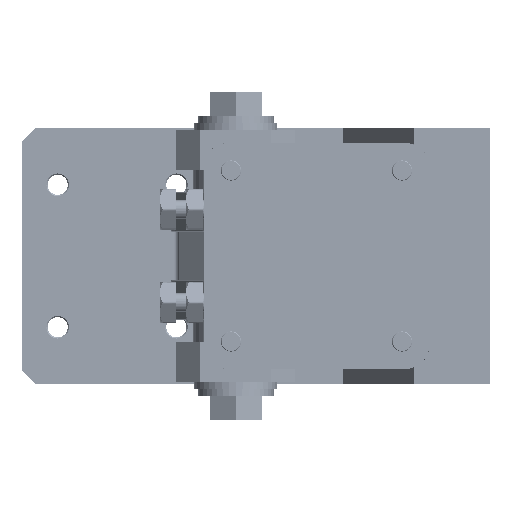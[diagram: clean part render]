
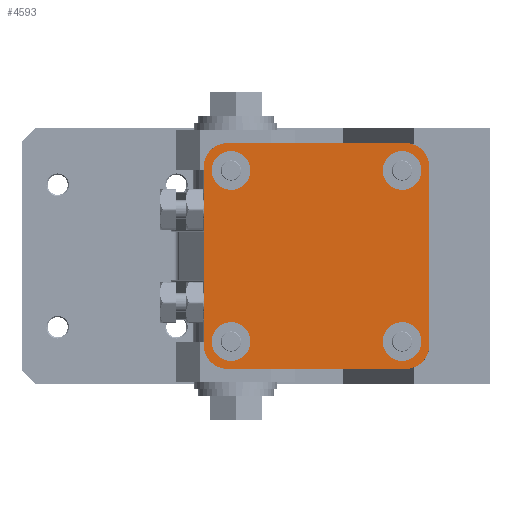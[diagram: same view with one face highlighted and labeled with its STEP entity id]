
A CAD part, front view. The second image highlights one B-rep face of the part: STEP entity #4593.
In plain terms, the highlighted planar face has unit normal (0, -1, 0).
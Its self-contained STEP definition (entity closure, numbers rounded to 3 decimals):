
#2187=FACE_BOUND('',#9729,.T.);
#2188=FACE_BOUND('',#9730,.T.);
#2189=FACE_BOUND('',#9731,.T.);
#2190=FACE_BOUND('',#9732,.T.);
#2191=FACE_BOUND('',#9733,.T.);
#3303=CIRCLE('',#36399,8.15);
#3304=CIRCLE('',#36400,8.15);
#3305=CIRCLE('',#36401,10.);
#3306=CIRCLE('',#36402,10.);
#3307=CIRCLE('',#36403,10.);
#3308=CIRCLE('',#36404,10.);
#3309=CIRCLE('',#36405,8.15);
#3310=CIRCLE('',#36406,8.15);
#4593=ADVANCED_FACE('',(#2187,#2188,#2189,#2190,#2191),#6363,.F.);
#6363=PLANE('',#36407);
#9729=EDGE_LOOP('',(#14417));
#9730=EDGE_LOOP('',(#14418));
#9731=EDGE_LOOP('',(#14419,#14420,#14421,#14422,#14423,#14424,#14425,#14426));
#9732=EDGE_LOOP('',(#14427));
#9733=EDGE_LOOP('',(#14428));
#14417=ORIENTED_EDGE('',*,*,#25639,.F.);
#14418=ORIENTED_EDGE('',*,*,#25640,.F.);
#14419=ORIENTED_EDGE('',*,*,#25641,.F.);
#14420=ORIENTED_EDGE('',*,*,#25642,.F.);
#14421=ORIENTED_EDGE('',*,*,#25643,.T.);
#14422=ORIENTED_EDGE('',*,*,#25644,.F.);
#14423=ORIENTED_EDGE('',*,*,#25535,.T.);
#14424=ORIENTED_EDGE('',*,*,#25645,.F.);
#14425=ORIENTED_EDGE('',*,*,#25646,.F.);
#14426=ORIENTED_EDGE('',*,*,#25647,.F.);
#14427=ORIENTED_EDGE('',*,*,#25648,.F.);
#14428=ORIENTED_EDGE('',*,*,#25649,.T.);
#21878=VERTEX_POINT('',#91617);
#21880=VERTEX_POINT('',#91620);
#21982=VERTEX_POINT('',#91842);
#21983=VERTEX_POINT('',#91844);
#21984=VERTEX_POINT('',#91846);
#21985=VERTEX_POINT('',#91847);
#21986=VERTEX_POINT('',#91849);
#21987=VERTEX_POINT('',#91851);
#21988=VERTEX_POINT('',#91854);
#21989=VERTEX_POINT('',#91856);
#21990=VERTEX_POINT('',#91859);
#21991=VERTEX_POINT('',#91861);
#25535=EDGE_CURVE('',#21880,#21878,#29488,.T.);
#25639=EDGE_CURVE('',#21982,#21982,#3303,.T.);
#25640=EDGE_CURVE('',#21983,#21983,#3304,.T.);
#25641=EDGE_CURVE('',#21984,#21985,#29574,.T.);
#25642=EDGE_CURVE('',#21986,#21984,#3305,.T.);
#25643=EDGE_CURVE('',#21986,#21987,#29575,.T.);
#25644=EDGE_CURVE('',#21880,#21987,#3306,.T.);
#25645=EDGE_CURVE('',#21988,#21878,#3307,.T.);
#25646=EDGE_CURVE('',#21989,#21988,#29576,.T.);
#25647=EDGE_CURVE('',#21985,#21989,#3308,.T.);
#25648=EDGE_CURVE('',#21990,#21990,#3309,.T.);
#25649=EDGE_CURVE('',#21991,#21991,#3310,.T.);
#29488=LINE('',#91619,#31684);
#29574=LINE('',#91845,#31770);
#29575=LINE('',#91850,#31771);
#29576=LINE('',#91855,#31772);
#31684=VECTOR('',#41198,1.);
#31770=VECTOR('',#41324,1.);
#31771=VECTOR('',#41327,1.);
#31772=VECTOR('',#41332,1.);
#36399=AXIS2_PLACEMENT_3D('',#91841,#41320,#41321);
#36400=AXIS2_PLACEMENT_3D('',#91843,#41322,#41323);
#36401=AXIS2_PLACEMENT_3D('',#91848,#41325,#41326);
#36402=AXIS2_PLACEMENT_3D('',#91852,#41328,#41329);
#36403=AXIS2_PLACEMENT_3D('',#91853,#41330,#41331);
#36404=AXIS2_PLACEMENT_3D('',#91857,#41333,#41334);
#36405=AXIS2_PLACEMENT_3D('',#91858,#41335,#41336);
#36406=AXIS2_PLACEMENT_3D('',#91860,#41337,#41338);
#36407=AXIS2_PLACEMENT_3D('',#91862,#41339,#41340);
#41198=DIRECTION('',(-1.,0.,0.));
#41320=DIRECTION('',(0.,-1.,0.));
#41321=DIRECTION('',(0.,0.,-1.));
#41322=DIRECTION('',(0.,-1.,0.));
#41323=DIRECTION('',(0.,0.,-1.));
#41324=DIRECTION('',(-1.,0.,0.));
#41325=DIRECTION('',(0.,1.,0.));
#41326=DIRECTION('',(-1.,0.,0.));
#41327=DIRECTION('',(0.,0.,1.));
#41328=DIRECTION('',(0.,1.,0.));
#41329=DIRECTION('',(-1.,0.,0.));
#41330=DIRECTION('',(0.,1.,0.));
#41331=DIRECTION('',(-1.,0.,0.));
#41332=DIRECTION('',(0.,0.,1.));
#41333=DIRECTION('',(0.,1.,0.));
#41334=DIRECTION('',(-1.,0.,0.));
#41335=DIRECTION('',(0.,-1.,0.));
#41336=DIRECTION('',(0.,0.,-1.));
#41337=DIRECTION('',(0.,1.,0.));
#41338=DIRECTION('',(0.,0.,-1.));
#41339=DIRECTION('',(0.,1.,0.));
#41340=DIRECTION('',(-1.,0.,0.));
#91617=CARTESIAN_POINT('',(-3.5,-258.,245.5));
#91619=CARTESIAN_POINT('',(-13.5,-258.,245.5));
#91620=CARTESIAN_POINT('',(71.5,-258.,245.5));
#91841=CARTESIAN_POINT('',(70.,-258.,234.));
#91842=CARTESIAN_POINT('',(70.,-258.,225.85));
#91843=CARTESIAN_POINT('',(70.,-258.,162.));
#91844=CARTESIAN_POINT('',(70.,-258.,153.85));
#91845=CARTESIAN_POINT('',(84.,-258.,150.5));
#91846=CARTESIAN_POINT('',(71.5,-258.,150.5));
#91847=CARTESIAN_POINT('',(-3.5,-258.,150.5));
#91848=CARTESIAN_POINT('',(71.5,-258.,160.5));
#91849=CARTESIAN_POINT('',(81.5,-258.,160.5));
#91850=CARTESIAN_POINT('',(81.5,-258.,150.5));
#91851=CARTESIAN_POINT('',(81.5,-258.,235.5));
#91852=CARTESIAN_POINT('',(71.5,-258.,235.5));
#91853=CARTESIAN_POINT('',(-3.5,-258.,235.5));
#91854=CARTESIAN_POINT('',(-13.5,-258.,235.5));
#91855=CARTESIAN_POINT('',(-13.5,-258.,150.5));
#91856=CARTESIAN_POINT('',(-13.5,-258.,160.5));
#91857=CARTESIAN_POINT('',(-3.5,-258.,160.5));
#91858=CARTESIAN_POINT('',(-2.,-258.,234.));
#91859=CARTESIAN_POINT('',(-2.,-258.,225.85));
#91860=CARTESIAN_POINT('',(-2.,-258.,162.));
#91861=CARTESIAN_POINT('',(-2.,-258.,153.85));
#91862=CARTESIAN_POINT('',(84.,-258.,150.5));
